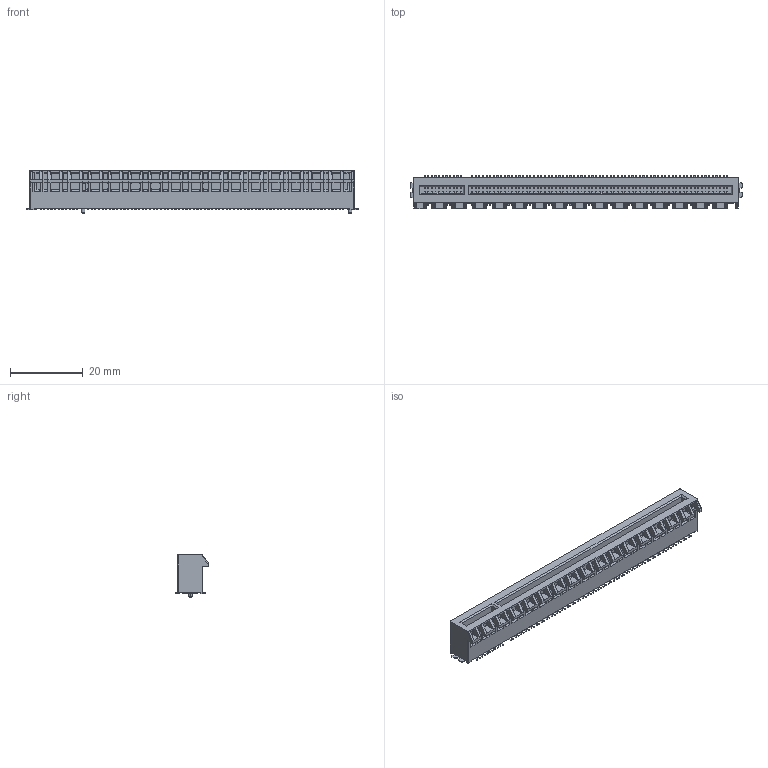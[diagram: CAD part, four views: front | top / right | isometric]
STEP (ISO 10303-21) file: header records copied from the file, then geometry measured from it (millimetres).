
FILE_DESCRIPTION((''),'2;1');
FILE_NAME('STANDARD_PCIE5_0_SLOT_PLUS_164P','2026-07-10T16:18:34',('39000620'),(''),'CREO PARAMETRIC BY PTC INC, 2019471','CREO PARAMETRIC BY PTC INC, 2019471','');
FILE_SCHEMA(('CONFIG_CONTROL_DESIGN'));
Products named in the file (1): STANDARD_PCIE5_0_SLOT_PLUS_164P
Bounding box: 91 x 9.22 x 11.6 mm (x, y, z)
Volume: 5065 mm3; surface area: 6183 mm2
Topology: 1 solids, 1 shells, 5471 faces, 14909 edges, 9409 vertices
Faces by surface type: plane 3016, cylinder 2164, sphere 278, bspline 6, cone 4, torus 3
Entity records: 171805 total; most frequent: CARTESIAN_POINT 32025, ORIENTED_EDGE 29262, DIRECTION 29062, EDGE_CURVE 14631, VECTOR 10340, LINE 10340, VERTEX_POINT 9409, AXIS2_PLACEMENT_3D 9361
